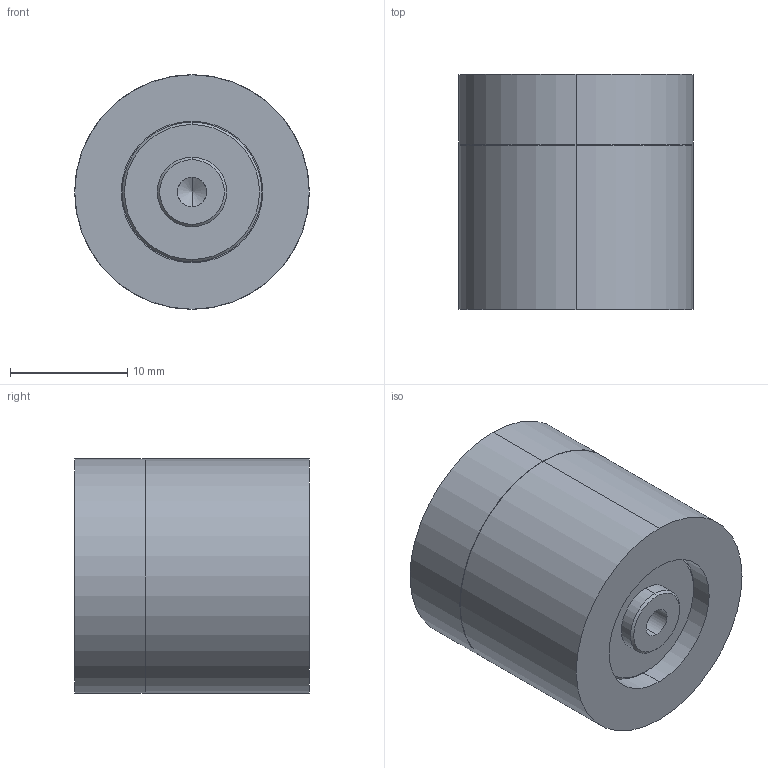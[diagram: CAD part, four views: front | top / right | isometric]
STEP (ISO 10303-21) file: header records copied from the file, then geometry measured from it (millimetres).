
FILE_DESCRIPTION (( 'STEP AP203' ), '1' );
FILE_NAME ('VA20.STEP', '2008-04-21T07:21:33', ( ' ' ), ( ' ' ), 'SwSTEP 2.0', 'SolidWorks 2005204', '' );
FILE_SCHEMA (( 'CONFIG_CONTROL_DESIGN' ));
Length unit declared in the file: millimetre
Products named in the file (1): VA20
Bounding box: 20 x 20 x 20 mm (x, y, z)
Volume: 5688.9 mm3; surface area: 3486.9 mm2
Topology: 2 solids, 2 shells, 45 faces, 94 edges, 57 vertices
Faces by surface type: cylinder 22, cone 14, plane 9
Entity records: 1389 total; most frequent: CARTESIAN_POINT 323, DIRECTION 224, ORIENTED_EDGE 184, AXIS2_PLACEMENT_3D 94, EDGE_CURVE 92, EDGE_LOOP 57, VERTEX_POINT 57, CIRCLE 48
